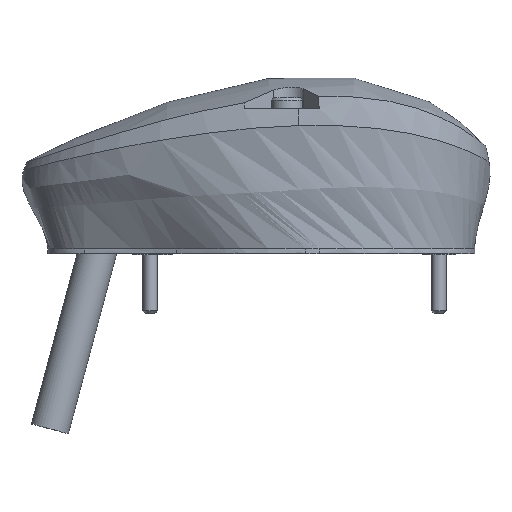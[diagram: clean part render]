
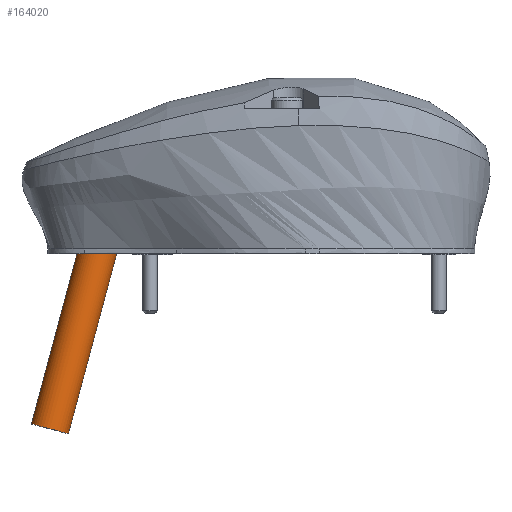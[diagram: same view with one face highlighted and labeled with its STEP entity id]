
A CAD part, top view. The second image highlights one B-rep face of the part: STEP entity #164020.
In plain terms, the highlighted cylindrical face has radius 4 mm (diameter 8 mm), a partial arc.
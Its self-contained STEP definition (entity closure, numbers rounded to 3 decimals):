
#17580=CARTESIAN_POINT('',(-39.05,-10.9,0.));
#17590=DIRECTION('',(0.,-1.,0.));
#17600=DIRECTION('',(-1.,0.,0.));
#17610=AXIS2_PLACEMENT_3D('',#17580,#17590,#17600);
#17620=ELLIPSE('',#17610,4.141,4.);
#17630=CARTESIAN_POINT('',(-43.191,-10.9,0.)
);
#17640=VERTEX_POINT('',#17630);
#17650=CARTESIAN_POINT('',(-34.909,-10.9,0.)
);
#17660=VERTEX_POINT('',#17650);
#17690=EDGE_CURVE('',#17660,#17640,#17620,.T.);
#163400=CARTESIAN_POINT('',(-48.885,-47.605,
0.));
#163410=DIRECTION('',(-0.259,-0.966,0.));
#163420=DIRECTION('',(0.966,-0.259,0.));
#163430=AXIS2_PLACEMENT_3D('',#163400,#163410,#163420);
#163440=CIRCLE('',#163430,4.);
#163450=CARTESIAN_POINT('',(-45.021,-48.64,
0.));
#163460=VERTEX_POINT('',#163450);
#163470=CARTESIAN_POINT('',(-52.749,-46.57,
0.));
#163480=VERTEX_POINT('',#163470);
#163490=EDGE_CURVE('',#163460,#163480,#163440,.T.);
#163610=CARTESIAN_POINT('',(-35.186,-11.935,
0.));
#163620=DIRECTION('',(-0.259,-0.966,0.));
#163630=VECTOR('',#163620,1.);
#163640=LINE('',#163610,#163630);
#163650=EDGE_CURVE('',#17660,#163460,#163640,.T.);
#163680=CARTESIAN_POINT('',(-42.914,-9.865,
0.));
#163690=DIRECTION('',(-0.259,-0.966,0.));
#163700=VECTOR('',#163690,1.);
#163710=LINE('',#163680,#163700);
#163720=EDGE_CURVE('',#17640,#163480,#163710,.T.);
#163910=CARTESIAN_POINT('',(-39.05,-10.9,0.));
#163920=DIRECTION('',(-0.259,-0.966,0.));
#163930=DIRECTION('',(0.966,-0.259,0.));
#163940=AXIS2_PLACEMENT_3D('',#163910,#163920,#163930);
#163950=CYLINDRICAL_SURFACE('',#163940,4.);
#163960=ORIENTED_EDGE('',*,*,#163650,.F.);
#163970=ORIENTED_EDGE('',*,*,#163490,.F.);
#163980=ORIENTED_EDGE('',*,*,#163720,.T.);
#163990=ORIENTED_EDGE('',*,*,#17690,.T.);
#164000=EDGE_LOOP('',(#163990,#163980,#163970,#163960));
#164010=FACE_OUTER_BOUND('',#164000,.T.);
#164020=ADVANCED_FACE('',(#164010),#163950,.T.);
